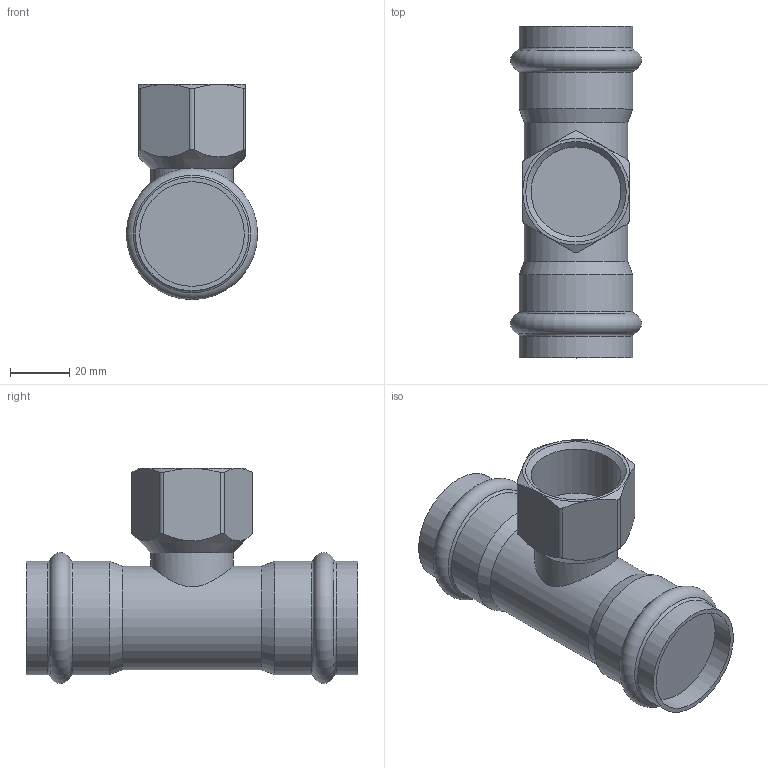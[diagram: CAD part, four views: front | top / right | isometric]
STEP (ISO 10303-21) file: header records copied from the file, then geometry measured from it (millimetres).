
FILE_DESCRIPTION(('STEP AP203'), '1');
FILE_NAME('VTi.932.I.350635', '', ('UNSPECIFIED'), ('UNSPECIFIED'), 'C3D Converter', 'C3D Toolkit', '');
FILE_SCHEMA(('CONFIG_CONTROL_DESIGN'));
Length unit declared in the file: millimetre
Bounding box: 44.28 x 112 x 72.64 mm (x, y, z)
Volume: 128857.7 mm3; surface area: 24300.9 mm2
Topology: 1 solids, 1 shells, 43 faces, 94 edges, 56 vertices
Faces by surface type: cylinder 15, plane 12, cone 10, torus 6
Full cylindrical faces by diameter (mm): 28 x1, 30.292 x1, 35 x1, 35.3 x2, 38.3 x4
Entity records: 2409 total; most frequent: CARTESIAN_POINT 1555, DIRECTION 156, ORIENTED_EDGE 148, EDGE_CURVE 74, AXIS2_PLACEMENT_3D 72, EDGE_LOOP 66, VERTEX_POINT 56, ADVANCED_FACE 43
